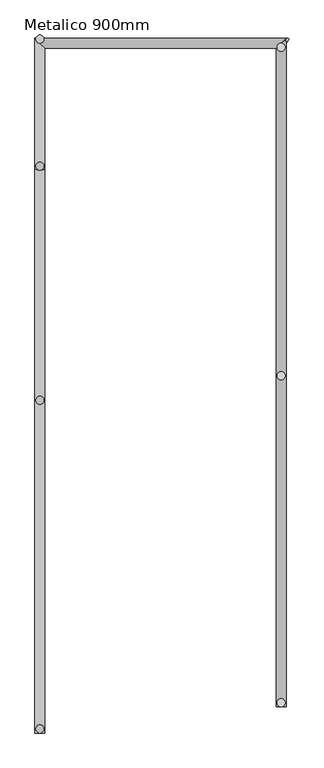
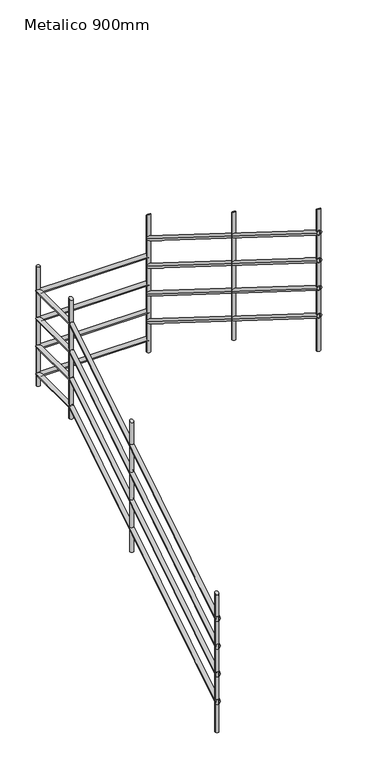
"""IFC4 building model written with IfcOpenShell, lengths in millimetres: railing geometry, Metalico 900mm."""

from ifc_helpers import new_model, si_unit, point, frame, frame_2d, origin, place, context, project, spatial, circle_curve, ellipse_curve, trimmed, segment, composite_curve, outline, extrude, source, transform, mapped, element, save
from ifc_brep_helpers import plane_surface, cylinder_surface, advanced_brep


def metalico_900mm_6a006fd6(model_context):
    return source(origin(), model_context, "Body", "SolidModel", [
        advanced_brep(
        [(9989.9958537, 8929.9988127, 3459.1198035), (10019.9958537, 8929.9988127, 3459.1198035), (9989.9958537, 10659.8455144, 4542.3333333), (10019.9958537, 10659.8455144, 4542.3333333), (10765.669886, 11059.9988127, 4542.3333333), (10740.2435505, 11029.9988127, 4542.3333333), (10019.9958537, 11029.9988127, 4542.3333333), (9989.9958537, 11059.9988127, 4542.3333333)],
        [
            (0, 1, ellipse_curve(frame((10004.9958537, 8929.9988127, 3459.1198035), z_axis=(0.0, -1.0, 0.0), x_axis=(0.0, 0.0, -0.9999999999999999)), 17.6981854, 15.0)),
            (1, 0, ellipse_curve(frame((10004.9958537, 8929.9988127, 3459.1198035), z_axis=(0.0, -1.0, 0.0), x_axis=(0.0, 0.0, -0.9999999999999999)), 17.6981854, 15.0)),
            (0, 2),
            (2, 3, ellipse_curve(frame((10004.9958537, 10659.8455144, 4542.3333333), z_axis=(0.0, -0.9611307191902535, -0.27609371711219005), x_axis=(0.0, 0.2760937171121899, -0.9611307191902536)), 15.606618, 15.0)),
            (3, 1),
            (3, 2, ellipse_curve(frame((10004.9958537, 10659.8455144, 4542.3333333), z_axis=(0.0, -0.9611307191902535, -0.27609371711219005), x_axis=(0.0, 0.2760937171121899, -0.9611307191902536)), 15.606618, 15.0)),
            (4, 5, ellipse_curve(frame((10752.9567183, 11044.9988127, 4542.3333333), z_axis=(0.7071067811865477, -0.5993044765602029, 0.3752787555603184), x_axis=(-0.7071067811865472, -0.5993044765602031, 0.3752787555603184)), 21.2132034, 15.0)),
            (5, 4, ellipse_curve(frame((10752.9567183, 11044.9988127, 4542.3333333), z_axis=(0.7071067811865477, -0.5993044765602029, 0.3752787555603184), x_axis=(-0.7071067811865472, -0.5993044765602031, 0.3752787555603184)), 21.2132034, 15.0)),
            (6, 7, ellipse_curve(frame((10004.9958537, 11044.9988127, 4542.3333333), z_axis=(0.7071067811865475, 0.7071067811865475, 0.0), x_axis=(-0.7071067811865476, 0.7071067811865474, 0.0)), 21.2132034, 15.0)),
            (7, 4),
            (5, 6),
            (7, 6, ellipse_curve(frame((10004.9958537, 11044.9988127, 4542.3333333), z_axis=(0.7071067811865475, 0.7071067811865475, 0.0), x_axis=(-0.7071067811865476, 0.7071067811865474, 0.0)), 21.2132034, 15.0)),
            (2, 7),
            (6, 3),
        ],
        [
            plane_surface(frame((10004.9958537, 8929.9988127, 3476.8179888), z_axis=(0.0, -1.0, 0.0), x_axis=(0.0, 0.0, 1.0))),
            cylinder_surface(frame((10004.9958537, 8937.9596773, 3464.104821), z_axis=(0.0, -0.847544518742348, -0.5307243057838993), x_axis=(1.0, 0.0, 0.0)), 15.0),
            plane_surface(frame((10744.9958537, 11044.9988127, 4557.3333333), z_axis=(0.7071067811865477, -0.5993044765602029, 0.3752787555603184), x_axis=(0.7071067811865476, 0.599304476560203, -0.3752787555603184))),
            cylinder_surface(frame((10004.9958537, 11044.9988127, 4542.3333333), z_axis=(-1.0, 0.0, 0.0), x_axis=(0.0, -1.0, 0.0)), 15.0),
            cylinder_surface(frame((10004.9958537, 10655.5366253, 4542.3333333), z_axis=(0.0, -1.0, 0.0), x_axis=(1.0, 0.0, 0.0)), 15.0),
        ],
        [
            (0, [[1, 2]]),
            (1, [[-1, 3, 4, 5]]),
            (1, [[-2, -5, 6, -3]]),
            (2, [[7, 8]]),
            (3, [[9, 10, -8, 11]]),
            (3, [[12, -11, -7, -10]]),
            (4, [[-4, 13, -9, 14]]),
            (4, [[-6, -14, -12, -13]]),
        ],
    ),
        advanced_brep(
        [(10759.9958537, 11049.7511159, 4665.0283486), (10729.9958537, 11024.3247804, 4680.9500778), (10759.9958537, 9009.9988127, 5942.3018146), (10729.9958537, 9009.9988127, 5942.3018146)],
        [
            (0, 1, ellipse_curve(frame((10744.9958537, 11037.0379481, 4672.9892132), z_axis=(-0.7071067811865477, 0.5993044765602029, -0.3752787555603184), x_axis=(0.7071067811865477, 0.5993044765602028, -0.37527875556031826)), 21.2132034, 15.0)),
            (1, 0, ellipse_curve(frame((10744.9958537, 11037.0379481, 4672.9892132), z_axis=(-0.7071067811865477, 0.5993044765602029, -0.3752787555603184), x_axis=(0.7071067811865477, 0.5993044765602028, -0.37527875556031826)), 21.2132034, 15.0)),
            (2, 3, ellipse_curve(frame((10744.9958537, 9009.9988127, 5942.3018146), z_axis=(0.0, -1.0, 0.0), x_axis=(0.0, 0.0, -1.0)), 17.6981854, 15.0)),
            (3, 2, ellipse_curve(frame((10744.9958537, 9009.9988127, 5942.3018146), z_axis=(0.0, -1.0, 0.0), x_axis=(0.0, 0.0, -1.0)), 17.6981854, 15.0)),
            (0, 2),
            (3, 1),
        ],
        [
            plane_surface(frame((10744.9958537, 11044.9988127, 4685.702381), z_axis=(-0.7071067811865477, 0.5993044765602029, -0.3752787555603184), x_axis=(0.7071067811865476, 0.599304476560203, -0.3752787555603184))),
            plane_surface(frame((10744.9958537, 9009.9988127, 5960.0), z_axis=(0.0, -1.0, 0.0), x_axis=(0.0, 0.0, -1.0))),
            cylinder_surface(frame((10744.9958537, 11037.0379481, 4672.9892132), z_axis=(0.0, 0.8475445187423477, -0.5307243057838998), x_axis=(-1.0, 0.0, 0.0)), 15.0),
        ],
        [
            (0, [[1, 2]]),
            (1, [[3, 4]]),
            (2, [[-1, 5, -4, 6]]),
            (2, [[-2, -6, -3, -5]]),
        ],
    ),
        advanced_brep(
        [(9989.9958537, 8929.9988127, 3259.1198035), (10019.9958537, 8929.9988127, 3259.1198035), (9989.9958537, 10659.8455144, 4342.3333333), (10019.9958537, 10659.8455144, 4342.3333333), (10765.669886, 11059.9988127, 4342.3333333), (10740.2435505, 11029.9988127, 4342.3333333), (10019.9958537, 11029.9988127, 4342.3333333), (9989.9958537, 11059.9988127, 4342.3333333)],
        [
            (0, 1, ellipse_curve(frame((10004.9958537, 8929.9988127, 3259.1198035), z_axis=(0.0, -1.0, 0.0), x_axis=(0.0, 0.0, -0.9999999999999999)), 17.6981854, 15.0)),
            (1, 0, ellipse_curve(frame((10004.9958537, 8929.9988127, 3259.1198035), z_axis=(0.0, -1.0, 0.0), x_axis=(0.0, 0.0, -0.9999999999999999)), 17.6981854, 15.0)),
            (0, 2),
            (2, 3, ellipse_curve(frame((10004.9958537, 10659.8455144, 4342.3333333), z_axis=(0.0, -0.9611307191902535, -0.27609371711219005), x_axis=(0.0, 0.2760937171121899, -0.9611307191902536)), 15.606618, 15.0)),
            (3, 1),
            (3, 2, ellipse_curve(frame((10004.9958537, 10659.8455144, 4342.3333333), z_axis=(0.0, -0.9611307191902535, -0.27609371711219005), x_axis=(0.0, 0.2760937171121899, -0.9611307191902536)), 15.606618, 15.0)),
            (4, 5, ellipse_curve(frame((10752.9567183, 11044.9988127, 4342.3333333), z_axis=(0.7071067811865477, -0.5993044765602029, 0.3752787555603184), x_axis=(-0.7071067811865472, -0.5993044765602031, 0.3752787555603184)), 21.2132034, 15.0)),
            (5, 4, ellipse_curve(frame((10752.9567183, 11044.9988127, 4342.3333333), z_axis=(0.7071067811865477, -0.5993044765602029, 0.3752787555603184), x_axis=(-0.7071067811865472, -0.5993044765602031, 0.3752787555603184)), 21.2132034, 15.0)),
            (6, 7, ellipse_curve(frame((10004.9958537, 11044.9988127, 4342.3333333), z_axis=(0.7071067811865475, 0.7071067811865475, 0.0), x_axis=(-0.7071067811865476, 0.7071067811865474, 0.0)), 21.2132034, 15.0)),
            (7, 4),
            (5, 6),
            (7, 6, ellipse_curve(frame((10004.9958537, 11044.9988127, 4342.3333333), z_axis=(0.7071067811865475, 0.7071067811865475, 0.0), x_axis=(-0.7071067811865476, 0.7071067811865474, 0.0)), 21.2132034, 15.0)),
            (2, 7),
            (6, 3),
        ],
        [
            plane_surface(frame((10004.9958537, 8929.9988127, 3276.8179888), z_axis=(0.0, -1.0, 0.0), x_axis=(0.0, 0.0, 1.0))),
            cylinder_surface(frame((10004.9958537, 8937.9596773, 3264.104821), z_axis=(0.0, -0.847544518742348, -0.5307243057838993), x_axis=(1.0, 0.0, 0.0)), 15.0),
            plane_surface(frame((10744.9958537, 11044.9988127, 4357.3333333), z_axis=(0.7071067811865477, -0.5993044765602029, 0.3752787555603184), x_axis=(0.7071067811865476, 0.599304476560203, -0.3752787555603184))),
            cylinder_surface(frame((10004.9958537, 11044.9988127, 4342.3333333), z_axis=(-1.0, 0.0, 0.0), x_axis=(0.0, -1.0, 0.0)), 15.0),
            cylinder_surface(frame((10004.9958537, 10655.5366253, 4342.3333333), z_axis=(0.0, -1.0, 0.0), x_axis=(1.0, 0.0, 0.0)), 15.0),
        ],
        [
            (0, [[1, 2]]),
            (1, [[-1, 3, 4, 5]]),
            (1, [[-2, -5, 6, -3]]),
            (2, [[7, 8]]),
            (3, [[9, 10, -8, 11]]),
            (3, [[12, -11, -7, -10]]),
            (4, [[-4, 13, -9, 14]]),
            (4, [[-6, -14, -12, -13]]),
        ],
    ),
        advanced_brep(
        [(10759.9958537, 11049.7511159, 4465.0283486), (10729.9958537, 11024.3247804, 4480.9500778), (10759.9958537, 9009.9988127, 5742.3018146), (10729.9958537, 9009.9988127, 5742.3018146)],
        [
            (0, 1, ellipse_curve(frame((10744.9958537, 11037.0379481, 4472.9892132), z_axis=(-0.7071067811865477, 0.5993044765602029, -0.3752787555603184), x_axis=(0.7071067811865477, 0.5993044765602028, -0.37527875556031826)), 21.2132034, 15.0)),
            (1, 0, ellipse_curve(frame((10744.9958537, 11037.0379481, 4472.9892132), z_axis=(-0.7071067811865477, 0.5993044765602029, -0.3752787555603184), x_axis=(0.7071067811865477, 0.5993044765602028, -0.37527875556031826)), 21.2132034, 15.0)),
            (2, 3, ellipse_curve(frame((10744.9958537, 9009.9988127, 5742.3018146), z_axis=(0.0, -1.0, 0.0), x_axis=(0.0, 0.0, -1.0)), 17.6981854, 15.0)),
            (3, 2, ellipse_curve(frame((10744.9958537, 9009.9988127, 5742.3018146), z_axis=(0.0, -1.0, 0.0), x_axis=(0.0, 0.0, -1.0)), 17.6981854, 15.0)),
            (0, 2),
            (3, 1),
        ],
        [
            plane_surface(frame((10744.9958537, 11044.9988127, 4485.702381), z_axis=(-0.7071067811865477, 0.5993044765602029, -0.3752787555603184), x_axis=(0.7071067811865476, 0.599304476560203, -0.3752787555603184))),
            plane_surface(frame((10744.9958537, 9009.9988127, 5760.0), z_axis=(0.0, -1.0, 0.0), x_axis=(0.0, 0.0, -1.0))),
            cylinder_surface(frame((10744.9958537, 11037.0379481, 4472.9892132), z_axis=(0.0, 0.8475445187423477, -0.5307243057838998), x_axis=(-1.0, 0.0, 0.0)), 15.0),
        ],
        [
            (0, [[1, 2]]),
            (1, [[3, 4]]),
            (2, [[-1, 5, -4, 6]]),
            (2, [[-2, -6, -3, -5]]),
        ],
    ),
        advanced_brep(
        [(9989.9958537, 8929.9988127, 3059.1198035), (10019.9958537, 8929.9988127, 3059.1198035), (9989.9958537, 10659.8455144, 4142.3333333), (10019.9958537, 10659.8455144, 4142.3333333), (10765.669886, 11059.9988127, 4142.3333333), (10740.2435505, 11029.9988127, 4142.3333333), (10019.9958537, 11029.9988127, 4142.3333333), (9989.9958537, 11059.9988127, 4142.3333333)],
        [
            (0, 1, ellipse_curve(frame((10004.9958537, 8929.9988127, 3059.1198035), z_axis=(0.0, -1.0, 0.0), x_axis=(0.0, 0.0, -0.9999999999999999)), 17.6981854, 15.0)),
            (1, 0, ellipse_curve(frame((10004.9958537, 8929.9988127, 3059.1198035), z_axis=(0.0, -1.0, 0.0), x_axis=(0.0, 0.0, -0.9999999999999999)), 17.6981854, 15.0)),
            (0, 2),
            (2, 3, ellipse_curve(frame((10004.9958537, 10659.8455144, 4142.3333333), z_axis=(0.0, -0.9611307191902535, -0.27609371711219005), x_axis=(0.0, 0.2760937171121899, -0.9611307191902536)), 15.606618, 15.0)),
            (3, 1),
            (3, 2, ellipse_curve(frame((10004.9958537, 10659.8455144, 4142.3333333), z_axis=(0.0, -0.9611307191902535, -0.27609371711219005), x_axis=(0.0, 0.2760937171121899, -0.9611307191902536)), 15.606618, 15.0)),
            (4, 5, ellipse_curve(frame((10752.9567183, 11044.9988127, 4142.3333333), z_axis=(0.7071067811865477, -0.5993044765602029, 0.3752787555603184), x_axis=(-0.7071067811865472, -0.5993044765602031, 0.3752787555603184)), 21.2132034, 15.0)),
            (5, 4, ellipse_curve(frame((10752.9567183, 11044.9988127, 4142.3333333), z_axis=(0.7071067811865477, -0.5993044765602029, 0.3752787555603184), x_axis=(-0.7071067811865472, -0.5993044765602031, 0.3752787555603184)), 21.2132034, 15.0)),
            (6, 7, ellipse_curve(frame((10004.9958537, 11044.9988127, 4142.3333333), z_axis=(0.7071067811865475, 0.7071067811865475, 0.0), x_axis=(-0.7071067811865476, 0.7071067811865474, 0.0)), 21.2132034, 15.0)),
            (7, 4),
            (5, 6),
            (7, 6, ellipse_curve(frame((10004.9958537, 11044.9988127, 4142.3333333), z_axis=(0.7071067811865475, 0.7071067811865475, 0.0), x_axis=(-0.7071067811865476, 0.7071067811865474, 0.0)), 21.2132034, 15.0)),
            (2, 7),
            (6, 3),
        ],
        [
            plane_surface(frame((10004.9958537, 8929.9988127, 3076.8179888), z_axis=(0.0, -1.0, 0.0), x_axis=(0.0, 0.0, 1.0))),
            cylinder_surface(frame((10004.9958537, 8937.9596773, 3064.104821), z_axis=(0.0, -0.847544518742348, -0.5307243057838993), x_axis=(1.0, 0.0, 0.0)), 15.0),
            plane_surface(frame((10744.9958537, 11044.9988127, 4157.3333333), z_axis=(0.7071067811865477, -0.5993044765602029, 0.3752787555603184), x_axis=(0.7071067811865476, 0.599304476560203, -0.3752787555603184))),
            cylinder_surface(frame((10004.9958537, 11044.9988127, 4142.3333333), z_axis=(-1.0, 0.0, 0.0), x_axis=(0.0, -1.0, 0.0)), 15.0),
            cylinder_surface(frame((10004.9958537, 10655.5366253, 4142.3333333), z_axis=(0.0, -1.0, 0.0), x_axis=(1.0, 0.0, 0.0)), 15.0),
        ],
        [
            (0, [[1, 2]]),
            (1, [[-1, 3, 4, 5]]),
            (1, [[-2, -5, 6, -3]]),
            (2, [[7, 8]]),
            (3, [[9, 10, -8, 11]]),
            (3, [[12, -11, -7, -10]]),
            (4, [[-4, 13, -9, 14]]),
            (4, [[-6, -14, -12, -13]]),
        ],
    ),
        advanced_brep(
        [(10759.9958537, 11049.7511159, 4265.0283486), (10729.9958537, 11024.3247804, 4280.9500778), (10759.9958537, 9009.9988127, 5542.3018146), (10729.9958537, 9009.9988127, 5542.3018146)],
        [
            (0, 1, ellipse_curve(frame((10744.9958537, 11037.0379481, 4272.9892132), z_axis=(-0.7071067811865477, 0.5993044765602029, -0.3752787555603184), x_axis=(0.7071067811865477, 0.5993044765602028, -0.37527875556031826)), 21.2132034, 15.0)),
            (1, 0, ellipse_curve(frame((10744.9958537, 11037.0379481, 4272.9892132), z_axis=(-0.7071067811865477, 0.5993044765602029, -0.3752787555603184), x_axis=(0.7071067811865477, 0.5993044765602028, -0.37527875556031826)), 21.2132034, 15.0)),
            (2, 3, ellipse_curve(frame((10744.9958537, 9009.9988127, 5542.3018146), z_axis=(0.0, -1.0, 0.0), x_axis=(0.0, 0.0, -1.0)), 17.6981854, 15.0)),
            (3, 2, ellipse_curve(frame((10744.9958537, 9009.9988127, 5542.3018146), z_axis=(0.0, -1.0, 0.0), x_axis=(0.0, 0.0, -1.0)), 17.6981854, 15.0)),
            (0, 2),
            (3, 1),
        ],
        [
            plane_surface(frame((10744.9958537, 11044.9988127, 4285.702381), z_axis=(-0.7071067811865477, 0.5993044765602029, -0.3752787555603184), x_axis=(0.7071067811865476, 0.599304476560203, -0.3752787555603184))),
            plane_surface(frame((10744.9958537, 9009.9988127, 5560.0), z_axis=(0.0, -1.0, 0.0), x_axis=(0.0, 0.0, -1.0))),
            cylinder_surface(frame((10744.9958537, 11037.0379481, 4272.9892132), z_axis=(0.0, 0.8475445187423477, -0.5307243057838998), x_axis=(-1.0, 0.0, 0.0)), 15.0),
        ],
        [
            (0, [[1, 2]]),
            (1, [[3, 4]]),
            (2, [[-1, 5, -4, 6]]),
            (2, [[-2, -6, -3, -5]]),
        ],
    ),
        advanced_brep(
        [(9989.9958537, 8929.9988127, 2859.1198035), (10019.9958537, 8929.9988127, 2859.1198035), (9989.9958537, 10659.8455144, 3942.3333333), (10019.9958537, 10659.8455144, 3942.3333333), (10765.669886, 11059.9988127, 3942.3333333), (10740.2435505, 11029.9988127, 3942.3333333), (10019.9958537, 11029.9988127, 3942.3333333), (9989.9958537, 11059.9988127, 3942.3333333)],
        [
            (0, 1, ellipse_curve(frame((10004.9958537, 8929.9988127, 2859.1198035), z_axis=(0.0, -1.0, 0.0), x_axis=(0.0, 0.0, -0.9999999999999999)), 17.6981854, 15.0)),
            (1, 0, ellipse_curve(frame((10004.9958537, 8929.9988127, 2859.1198035), z_axis=(0.0, -1.0, 0.0), x_axis=(0.0, 0.0, -0.9999999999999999)), 17.6981854, 15.0)),
            (0, 2),
            (2, 3, ellipse_curve(frame((10004.9958537, 10659.8455144, 3942.3333333), z_axis=(0.0, -0.9611307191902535, -0.27609371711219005), x_axis=(0.0, 0.2760937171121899, -0.9611307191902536)), 15.606618, 15.0)),
            (3, 1),
            (3, 2, ellipse_curve(frame((10004.9958537, 10659.8455144, 3942.3333333), z_axis=(0.0, -0.9611307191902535, -0.27609371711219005), x_axis=(0.0, 0.2760937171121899, -0.9611307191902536)), 15.606618, 15.0)),
            (4, 5, ellipse_curve(frame((10752.9567183, 11044.9988127, 3942.3333333), z_axis=(0.7071067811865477, -0.5993044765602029, 0.3752787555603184), x_axis=(-0.7071067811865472, -0.5993044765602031, 0.3752787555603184)), 21.2132034, 15.0)),
            (5, 4, ellipse_curve(frame((10752.9567183, 11044.9988127, 3942.3333333), z_axis=(0.7071067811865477, -0.5993044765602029, 0.3752787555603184), x_axis=(-0.7071067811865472, -0.5993044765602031, 0.3752787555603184)), 21.2132034, 15.0)),
            (6, 7, ellipse_curve(frame((10004.9958537, 11044.9988127, 3942.3333333), z_axis=(0.7071067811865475, 0.7071067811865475, 0.0), x_axis=(-0.7071067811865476, 0.7071067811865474, 0.0)), 21.2132034, 15.0)),
            (7, 4),
            (5, 6),
            (7, 6, ellipse_curve(frame((10004.9958537, 11044.9988127, 3942.3333333), z_axis=(0.7071067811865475, 0.7071067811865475, 0.0), x_axis=(-0.7071067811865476, 0.7071067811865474, 0.0)), 21.2132034, 15.0)),
            (2, 7),
            (6, 3),
        ],
        [
            plane_surface(frame((10004.9958537, 8929.9988127, 2876.8179888), z_axis=(0.0, -1.0, 0.0), x_axis=(0.0, 0.0, 1.0))),
            cylinder_surface(frame((10004.9958537, 8937.9596773, 2864.104821), z_axis=(0.0, -0.847544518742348, -0.5307243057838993), x_axis=(1.0, 0.0, 0.0)), 15.0),
            plane_surface(frame((10744.9958537, 11044.9988127, 3957.3333333), z_axis=(0.7071067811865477, -0.5993044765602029, 0.3752787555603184), x_axis=(0.7071067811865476, 0.599304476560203, -0.3752787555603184))),
            cylinder_surface(frame((10004.9958537, 11044.9988127, 3942.3333333), z_axis=(-1.0, 0.0, 0.0), x_axis=(0.0, -1.0, 0.0)), 15.0),
            cylinder_surface(frame((10004.9958537, 10655.5366253, 3942.3333333), z_axis=(0.0, -1.0, 0.0), x_axis=(1.0, 0.0, 0.0)), 15.0),
        ],
        [
            (0, [[1, 2]]),
            (1, [[-1, 3, 4, 5]]),
            (1, [[-2, -5, 6, -3]]),
            (2, [[7, 8]]),
            (3, [[9, 10, -8, 11]]),
            (3, [[12, -11, -7, -10]]),
            (4, [[-4, 13, -9, 14]]),
            (4, [[-6, -14, -12, -13]]),
        ],
    ),
        advanced_brep(
        [(10759.9958537, 11049.7511159, 4065.0283486), (10729.9958537, 11024.3247804, 4080.9500778), (10759.9958537, 9009.9988127, 5342.3018146), (10729.9958537, 9009.9988127, 5342.3018146)],
        [
            (0, 1, ellipse_curve(frame((10744.9958537, 11037.0379481, 4072.9892132), z_axis=(-0.7071067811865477, 0.5993044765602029, -0.3752787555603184), x_axis=(0.7071067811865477, 0.5993044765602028, -0.37527875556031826)), 21.2132034, 15.0)),
            (1, 0, ellipse_curve(frame((10744.9958537, 11037.0379481, 4072.9892132), z_axis=(-0.7071067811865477, 0.5993044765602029, -0.3752787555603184), x_axis=(0.7071067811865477, 0.5993044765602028, -0.37527875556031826)), 21.2132034, 15.0)),
            (2, 3, ellipse_curve(frame((10744.9958537, 9009.9988127, 5342.3018146), z_axis=(0.0, -1.0, 0.0), x_axis=(0.0, 0.0, -1.0)), 17.6981854, 15.0)),
            (3, 2, ellipse_curve(frame((10744.9958537, 9009.9988127, 5342.3018146), z_axis=(0.0, -1.0, 0.0), x_axis=(0.0, 0.0, -1.0)), 17.6981854, 15.0)),
            (0, 2),
            (3, 1),
        ],
        [
            plane_surface(frame((10744.9958537, 11044.9988127, 4085.702381), z_axis=(-0.7071067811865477, 0.5993044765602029, -0.3752787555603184), x_axis=(0.7071067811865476, 0.599304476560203, -0.3752787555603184))),
            plane_surface(frame((10744.9958537, 9009.9988127, 5360.0), z_axis=(0.0, -1.0, 0.0), x_axis=(0.0, 0.0, -1.0))),
            cylinder_surface(frame((10744.9958537, 11037.0379481, 4072.9892132), z_axis=(0.0, 0.8475445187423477, -0.5307243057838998), x_axis=(-1.0, 0.0, 0.0)), 15.0),
        ],
        [
            (0, [[1, 2]]),
            (1, [[3, 4]]),
            (2, [[-1, 5, -4, 6]]),
            (2, [[-2, -6, -3, -5]]),
        ],
    ),
        advanced_brep(
        [(10732.4958537, 10024.9988127, 5477.2215057), (10732.4958537, 10024.9988127, 4558.6666667), (10757.4958537, 10024.9988127, 4558.6666667), (10757.4958537, 10024.9988127, 5477.2215057)],
        [
            (0, 1),
            (1, 2, circle_curve(frame((10744.9958537, 10024.9988127, 4558.6666667), z_axis=(0.0, 0.0, 1.0), x_axis=(1.0, 0.0, 0.0)), 12.5)),
            (2, 3),
            (3, 0, ellipse_curve(frame((10744.9958537, 10024.9988127, 5477.2215057), z_axis=(0.0, -0.5307243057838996, -0.8475445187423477), x_axis=(0.0, -0.8475445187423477, 0.5307243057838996)), 14.7484878, 12.5)),
            (0, 3, ellipse_curve(frame((10744.9958537, 10024.9988127, 5477.2215057), z_axis=(0.0, -0.5307243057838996, -0.8475445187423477), x_axis=(0.0, -0.8475445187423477, 0.5307243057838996)), 14.7484878, 12.5)),
            (2, 1, circle_curve(frame((10744.9958537, 10024.9988127, 4558.6666667), z_axis=(0.0, 0.0, 1.0), x_axis=(1.0, 0.0, 0.0)), 12.5)),
        ],
        [
            cylinder_surface(frame((10744.9958537, 10024.9988127, 4458.6666667), z_axis=(0.0, 0.0, 1.0), x_axis=(1.0, 0.0, 0.0)), 12.5),
            plane_surface(frame((10769.9958537, 9999.9988127, 5492.8762676), z_axis=(0.0, 0.5307243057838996, 0.8475445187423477), x_axis=(-1.0, 0.0, 0.0))),
            plane_surface(frame((10769.9958537, 10049.9988127, 4558.6666667), z_axis=(0.0, 0.0, -1.0), x_axis=(-1.0, 0.0, 0.0))),
        ],
        [
            (0, [[1, 2, 3, 4]]),
            (0, [[-1, 5, -3, 6]]),
            (1, [[-4, -5]]),
            (2, [[-2, -6]]),
        ],
    ),
        advanced_brep(
        [(10732.4958537, 10024.9988127, 5477.2215057), (10732.4958537, 10024.9988127, 4558.6666667), (10757.4958537, 10024.9988127, 4558.6666667), (10757.4958537, 10024.9988127, 5477.2215057)],
        [
            (0, 1),
            (1, 2, circle_curve(frame((10744.9958537, 10024.9988127, 4558.6666667), z_axis=(0.0, 0.0, 1.0), x_axis=(1.0, 0.0, 0.0)), 12.5)),
            (2, 3),
            (3, 0, ellipse_curve(frame((10744.9958537, 10024.9988127, 5477.2215057), z_axis=(0.0, -0.5307243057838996, -0.8475445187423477), x_axis=(0.0, -0.8475445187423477, 0.5307243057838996)), 14.7484878, 12.5)),
            (0, 3, ellipse_curve(frame((10744.9958537, 10024.9988127, 5477.2215057), z_axis=(0.0, -0.5307243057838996, -0.8475445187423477), x_axis=(0.0, -0.8475445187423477, 0.5307243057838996)), 14.7484878, 12.5)),
            (2, 1, circle_curve(frame((10744.9958537, 10024.9988127, 4558.6666667), z_axis=(0.0, 0.0, 1.0), x_axis=(1.0, 0.0, 0.0)), 12.5)),
        ],
        [
            cylinder_surface(frame((10744.9958537, 10024.9988127, 4458.6666667), z_axis=(0.0, 0.0, 1.0), x_axis=(1.0, 0.0, 0.0)), 12.5),
            plane_surface(frame((10769.9958537, 9999.9988127, 5492.8762676), z_axis=(0.0, 0.5307243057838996, 0.8475445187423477), x_axis=(-1.0, 0.0, 0.0))),
            plane_surface(frame((10769.9958537, 10049.9988127, 4558.6666667), z_axis=(0.0, 0.0, -1.0), x_axis=(-1.0, 0.0, 0.0))),
        ],
        [
            (0, [[1, 2, 3, 4]]),
            (0, [[-1, 5, -3, 6]]),
            (1, [[-4, -5]]),
            (2, [[-2, -6]]),
        ],
    ),
        advanced_brep(
        [(10017.4958537, 9949.9988127, 4268.3371136), (10017.4958537, 9949.9988127, 3331.3333333), (9992.4958537, 9949.9988127, 3331.3333333), (9992.4958537, 9949.9988127, 4268.3371136)],
        [
            (0, 1),
            (1, 2, circle_curve(frame((10004.9958537, 9949.9988127, 3331.3333333), z_axis=(0.0, 0.0, 1.0), x_axis=(-1.0, 0.0, 0.0)), 12.5)),
            (2, 3),
            (3, 0, ellipse_curve(frame((10004.9958537, 9949.9988127, 4268.3371136), z_axis=(0.0, 0.530724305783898, -0.8475445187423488), x_axis=(0.0, 0.8475445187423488, 0.5307243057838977)), 14.7484878, 12.5)),
            (0, 3, ellipse_curve(frame((10004.9958537, 9949.9988127, 4268.3371136), z_axis=(0.0, 0.530724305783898, -0.8475445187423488), x_axis=(0.0, 0.8475445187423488, 0.5307243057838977)), 14.7484878, 12.5)),
            (2, 1, circle_curve(frame((10004.9958537, 9949.9988127, 3331.3333333), z_axis=(0.0, 0.0, 1.0), x_axis=(-1.0, 0.0, 0.0)), 12.5)),
        ],
        [
            cylinder_surface(frame((10004.9958537, 9949.9988127, 3231.3333333), z_axis=(0.0, 0.0, 1.0), x_axis=(-1.0, 0.0, 0.0)), 12.5),
            plane_surface(frame((9979.9958537, 9974.9988127, 4283.9918755), z_axis=(0.0, -0.530724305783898, 0.8475445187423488), x_axis=(1.0, 0.0, 0.0))),
            plane_surface(frame((9979.9958537, 9924.9988127, 3331.3333333), z_axis=(0.0, 0.0, -1.0), x_axis=(1.0, 0.0, 0.0))),
        ],
        [
            (0, [[1, 2, 3, 4]]),
            (0, [[-1, 5, -3, 6]]),
            (1, [[-4, -5]]),
            (2, [[-2, -6]]),
        ],
    ),
        advanced_brep(
        [(10017.4958537, 9949.9988127, 4268.3371136), (10017.4958537, 9949.9988127, 3331.3333333), (9992.4958537, 9949.9988127, 3331.3333333), (9992.4958537, 9949.9988127, 4268.3371136)],
        [
            (0, 1),
            (1, 2, circle_curve(frame((10004.9958537, 9949.9988127, 3331.3333333), z_axis=(0.0, 0.0, 1.0), x_axis=(-1.0, 0.0, 0.0)), 12.5)),
            (2, 3),
            (3, 0, ellipse_curve(frame((10004.9958537, 9949.9988127, 4268.3371136), z_axis=(0.0, 0.530724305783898, -0.8475445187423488), x_axis=(0.0, 0.8475445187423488, 0.5307243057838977)), 14.7484878, 12.5)),
            (0, 3, ellipse_curve(frame((10004.9958537, 9949.9988127, 4268.3371136), z_axis=(0.0, 0.530724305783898, -0.8475445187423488), x_axis=(0.0, 0.8475445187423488, 0.5307243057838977)), 14.7484878, 12.5)),
            (2, 1, circle_curve(frame((10004.9958537, 9949.9988127, 3331.3333333), z_axis=(0.0, 0.0, 1.0), x_axis=(-1.0, 0.0, 0.0)), 12.5)),
        ],
        [
            cylinder_surface(frame((10004.9958537, 9949.9988127, 3231.3333333), z_axis=(0.0, 0.0, 1.0), x_axis=(-1.0, 0.0, 0.0)), 12.5),
            plane_surface(frame((9979.9958537, 9974.9988127, 4283.9918755), z_axis=(0.0, -0.530724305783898, 0.8475445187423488), x_axis=(1.0, 0.0, 0.0))),
            plane_surface(frame((9979.9958537, 9924.9988127, 3331.3333333), z_axis=(0.0, 0.0, -1.0), x_axis=(1.0, 0.0, 0.0))),
        ],
        [
            (0, [[1, 2, 3, 4]]),
            (0, [[-1, 5, -3, 6]]),
            (1, [[-4, -5]]),
            (2, [[-2, -6]]),
        ],
    ),
        advanced_brep(
        [(10732.4958537, 11032.4988127, 4846.3346009), (10732.4958537, 11032.4988127, 3857.3333333), (10757.4958537, 11032.4988127, 3857.3333333), (10757.4958537, 11032.4988127, 4846.3346009)],
        [
            (0, 1),
            (1, 2, circle_curve(frame((10744.9958537, 11032.4988127, 3857.3333333), z_axis=(0.0, 0.0, 1.0), x_axis=(1.0, 0.0, 0.0)), 12.5)),
            (2, 3),
            (3, 0, ellipse_curve(frame((10744.9958537, 11032.4988127, 4846.3346009), z_axis=(0.0, -0.530724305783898, -0.8475445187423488), x_axis=(0.0, -0.8475445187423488, 0.5307243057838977)), 14.7484878, 12.5)),
            (0, 3, ellipse_curve(frame((10744.9958537, 11032.4988127, 4846.3346009), z_axis=(0.0, -0.530724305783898, -0.8475445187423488), x_axis=(0.0, -0.8475445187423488, 0.5307243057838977)), 14.7484878, 12.5)),
            (2, 1, circle_curve(frame((10744.9958537, 11032.4988127, 3857.3333333), z_axis=(0.0, 0.0, 1.0), x_axis=(1.0, 0.0, 0.0)), 12.5)),
        ],
        [
            cylinder_surface(frame((10744.9958537, 11032.4988127, 3757.3333333), z_axis=(0.0, 0.0, 1.0), x_axis=(1.0, 0.0, 0.0)), 12.5),
            plane_surface(frame((10769.9958537, 11007.4988127, 4861.9893628), z_axis=(0.0, 0.530724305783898, 0.8475445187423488), x_axis=(-1.0, 0.0, 0.0))),
            plane_surface(frame((10769.9958537, 11057.4988127, 3857.3333333), z_axis=(0.0, 0.0, -1.0), x_axis=(-1.0, 0.0, 0.0))),
        ],
        [
            (0, [[1, 2, 3, 4]]),
            (0, [[-1, 5, -3, 6]]),
            (1, [[-4, -5]]),
            (2, [[-2, -6]]),
        ],
    ),
        extrude(outline(composite_curve([segment(trimmed(circle_curve(frame_2d((10004.9958537, 11057.4988127)), 12.5), [point((9992.4958537, 11057.4988127))], [point((10017.4958537, 11057.4988127))], False, "CARTESIAN"), True, "CONTINUOUS"), segment(trimmed(circle_curve(frame_2d((10004.9958537, 11057.4988127)), 12.5), [point((10017.4958537, 11057.4988127))], [point((9992.4958537, 11057.4988127))], False, "CARTESIAN"), True, "CONTINUOUS")], self_intersect=False)), frame((0.0, 0.0, 3857.3333333), z_axis=(0.0, 0.0, 1.0), x_axis=(1.0, 0.0, 0.0)), (0.0, 0.0, 1.0), 860.0),
        advanced_brep(
        [(10017.4958537, 10668.0366253, 4717.9655533), (10017.4958537, 10668.0366253, 3857.3333333), (9992.4958537, 10668.0366253, 3857.3333333), (9992.4958537, 10668.0366253, 4717.9655533)],
        [
            (0, 1),
            (1, 2, circle_curve(frame((10004.9958537, 10668.0366253, 3857.3333333), z_axis=(0.0, 0.0, 1.0), x_axis=(-1.0, 0.0, 0.0)), 12.5)),
            (2, 3),
            (3, 0, ellipse_curve(frame((10004.9958537, 10668.0366253, 4717.9655533), z_axis=(0.0, 0.5307243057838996, -0.8475445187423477), x_axis=(0.0, 0.8475445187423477, 0.5307243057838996)), 14.7484878, 12.5)),
            (0, 3, ellipse_curve(frame((10004.9958537, 10668.0366253, 4717.9655533), z_axis=(0.0, 0.5307243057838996, -0.8475445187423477), x_axis=(0.0, 0.8475445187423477, 0.5307243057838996)), 14.7484878, 12.5)),
            (2, 1, circle_curve(frame((10004.9958537, 10668.0366253, 3857.3333333), z_axis=(0.0, 0.0, 1.0), x_axis=(-1.0, 0.0, 0.0)), 12.5)),
        ],
        [
            cylinder_surface(frame((10004.9958537, 10668.0366253, 3757.3333333), z_axis=(0.0, 0.0, 1.0), x_axis=(-1.0, 0.0, 0.0)), 12.5),
            plane_surface(frame((9979.9958537, 10693.0366253, 4733.6203152), z_axis=(0.0, -0.5307243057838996, 0.8475445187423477), x_axis=(1.0, 0.0, 0.0))),
            plane_surface(frame((9979.9958537, 10643.0366253, 3857.3333333), z_axis=(0.0, 0.0, -1.0), x_axis=(1.0, 0.0, 0.0))),
        ],
        [
            (0, [[1, 2, 3, 4]]),
            (0, [[-1, 5, -3, 6]]),
            (1, [[-4, -5]]),
            (2, [[-2, -6]]),
        ],
    ),
        advanced_brep(
        [(10732.4958537, 9022.4988127, 6104.9774581), (10732.4958537, 9022.4988127, 5084.6666667), (10757.4958537, 9022.4988127, 5084.6666667), (10757.4958537, 9022.4988127, 6104.9774581)],
        [
            (0, 1),
            (1, 2, circle_curve(frame((10744.9958537, 9022.4988127, 5084.6666667), z_axis=(0.0, 0.0, 1.0), x_axis=(1.0, 0.0, 0.0)), 12.5)),
            (2, 3),
            (3, 0, ellipse_curve(frame((10744.9958537, 9022.4988127, 6104.9774581), z_axis=(0.0, -0.530724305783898, -0.8475445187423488), x_axis=(0.0, -0.8475445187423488, 0.5307243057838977)), 14.7484878, 12.5)),
            (0, 3, ellipse_curve(frame((10744.9958537, 9022.4988127, 6104.9774581), z_axis=(0.0, -0.530724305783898, -0.8475445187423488), x_axis=(0.0, -0.8475445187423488, 0.5307243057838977)), 14.7484878, 12.5)),
            (2, 1, circle_curve(frame((10744.9958537, 9022.4988127, 5084.6666667), z_axis=(0.0, 0.0, 1.0), x_axis=(1.0, 0.0, 0.0)), 12.5)),
        ],
        [
            cylinder_surface(frame((10744.9958537, 9022.4988127, 4984.6666667), z_axis=(0.0, 0.0, 1.0), x_axis=(1.0, 0.0, 0.0)), 12.5),
            plane_surface(frame((10769.9958537, 8997.4988127, 6120.63222), z_axis=(0.0, 0.530724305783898, 0.8475445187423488), x_axis=(-1.0, 0.0, 0.0))),
            plane_surface(frame((10769.9958537, 9047.4988127, 5084.6666667), z_axis=(0.0, 0.0, -1.0), x_axis=(-1.0, 0.0, 0.0))),
        ],
        [
            (0, [[1, 2, 3, 4]]),
            (0, [[-1, 5, -3, 6]]),
            (1, [[-4, -5]]),
            (2, [[-2, -6]]),
        ],
    ),
        advanced_brep(
        [(10017.4958537, 8942.4988127, 3637.4502088), (10017.4958537, 8942.4988127, 2639.6453698), (9992.4958537, 8942.4988127, 2639.6453698), (9992.4958537, 8942.4988127, 3637.4502088)],
        [
            (0, 1),
            (1, 2, circle_curve(frame((10004.9958537, 8942.4988127, 2639.6453698), z_axis=(0.0, 0.0, 1.0), x_axis=(-1.0, 0.0, 0.0)), 12.5)),
            (2, 3),
            (3, 0, ellipse_curve(frame((10004.9958537, 8942.4988127, 3637.4502088), z_axis=(0.0, 0.530724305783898, -0.8475445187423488), x_axis=(0.0, 0.8475445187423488, 0.5307243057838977)), 14.7484878, 12.5)),
            (0, 3, ellipse_curve(frame((10004.9958537, 8942.4988127, 3637.4502088), z_axis=(0.0, 0.530724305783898, -0.8475445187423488), x_axis=(0.0, 0.8475445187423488, 0.5307243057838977)), 14.7484878, 12.5)),
            (2, 1, circle_curve(frame((10004.9958537, 8942.4988127, 2639.6453698), z_axis=(0.0, 0.0, 1.0), x_axis=(-1.0, 0.0, 0.0)), 12.5)),
        ],
        [
            cylinder_surface(frame((10004.9958537, 8942.4988127, 2539.6453698), z_axis=(0.0, 0.0, 1.0), x_axis=(-1.0, 0.0, 0.0)), 12.5),
            plane_surface(frame((9979.9958537, 8967.4988127, 3653.1049707), z_axis=(0.0, -0.530724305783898, 0.8475445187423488), x_axis=(1.0, 0.0, 0.0))),
            plane_surface(frame((9979.9958537, 8917.4988127, 2639.6453698), z_axis=(0.0, 0.0, -1.0), x_axis=(1.0, 0.0, 0.0))),
        ],
        [
            (0, [[1, 2, 3, 4]]),
            (0, [[-1, 5, -3, 6]]),
            (1, [[-4, -5]]),
            (2, [[-2, -6]]),
        ],
    ),
    ])


if __name__ == "__main__":
    model = new_model("IFC4")
    model_context = context("Model", 3, world=origin())
    ifc_project = project(units=[si_unit("LENGTHUNIT", "METRE", prefix="MILLI")], contexts=[model_context])
    site = spatial("IfcSite", under=ifc_project)
    building = spatial("IfcBuilding", under=site)
    placement = place(None, origin())
    metalico_900mm_shape = metalico_900mm_6a006fd6(model_context)
    element("IfcRailing", 1, ObjectType="Metalico 900mm", at=placement, inside=building, context=model_context, shape_type="MappedRepresentation", body=[
        mapped(metalico_900mm_shape, transform((0.0, 0.0, 0.0), x_axis=(1.0, 0.0, 0.0), y_axis=(0.0, 1.0, 0.0), z_axis=(0.0, 0.0, 1.0))),
    ])
    save(model, "model.ifc")
